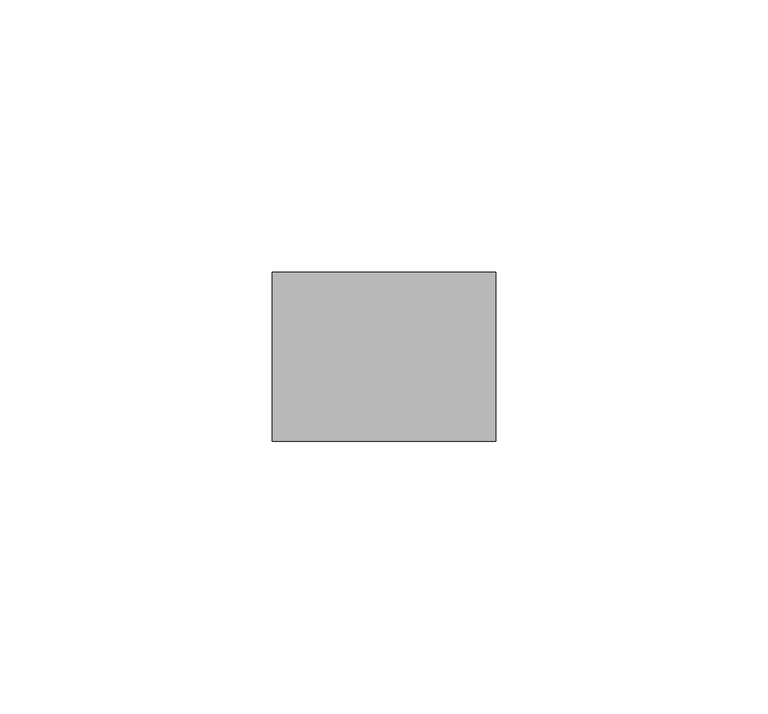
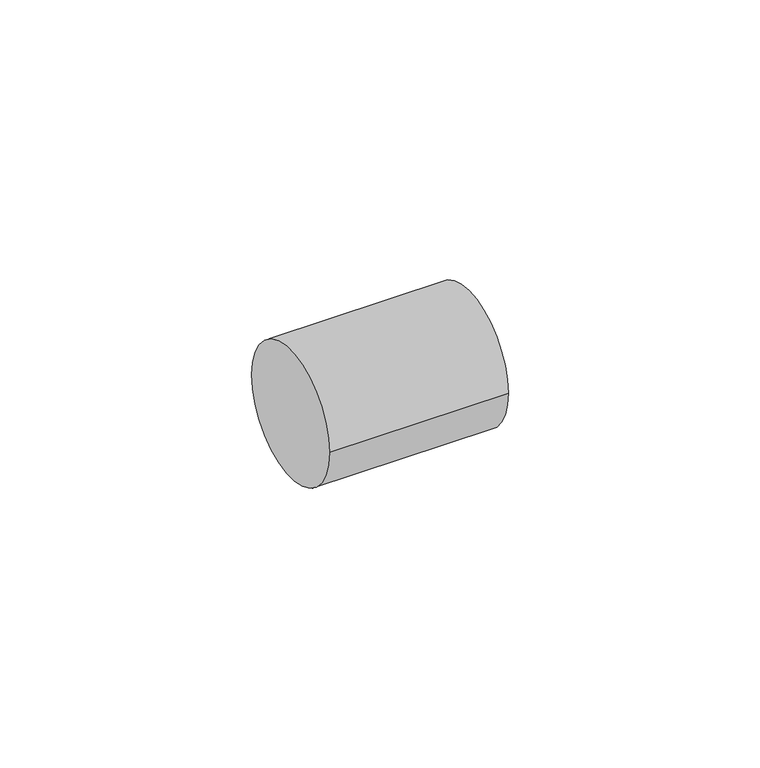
"""IFC4 building model written with IfcOpenShell, lengths in millimetres: pipe fitting geometry, 01051005 : Manguitos union."""

import ifcopenshell
import ifcopenshell.guid

model = None  # the IFC model being written
_history = None  # IfcOwnerHistory: only IFC2X3 demands one
_inside = {}  # id of a spatial element -> (the spatial element, [elements in it])
_under = {}  # id of a project, library or spatial element -> (it, [spatial elements below it])
_declared = {}  # id of a project -> (the project, [libraries it declares])
_typed = {}  # id of a type object -> (the type object, [elements of that type])
_made_of = {}  # id of a material, layer set ... -> (it, [elements and type objects made of it])


def new_model(schema):
    """Start an empty IFC model of exactly this schema.

    Asked for "IFC4X3", IfcOpenShell would pick the latest addendum, in which some entities
    have other attributes; the version numbers below select the first issue.
    IFC2X3 requires an IfcOwnerHistory on every rooted entity: one is made here for all.
    """
    global model, _history
    if schema == "IFC4X3":
        model = ifcopenshell.file(schema_version=(4, 3, 0, 0))
    else:
        model = ifcopenshell.file(schema=schema)
    _inside.clear()
    _under.clear()
    _declared.clear()
    _typed.clear()
    _made_of.clear()
    _history = None
    if model.schema == "IFC2X3":
        org = make("IfcOrganization", Name="unknown")
        user = make(
            "IfcPersonAndOrganization",
            ThePerson=make("IfcPerson", FamilyName="unknown"),
            TheOrganization=org,
        )
        app = make(
            "IfcApplication",
            ApplicationDeveloper=org,
            Version="unknown",
            ApplicationFullName="unknown",
            ApplicationIdentifier="unknown",
        )
        _history = make(
            "IfcOwnerHistory",
            OwningUser=user,
            OwningApplication=app,
            ChangeAction="ADDED",
            CreationDate=0,
        )
    return model


def make(cls, **values):
    """One entity of the class cls with the attributes given. An attribute that is None is left unset."""
    return model.create_entity(
        cls, **{name: value for name, value in values.items() if value is not None}
    )


def rooted(cls, **values):
    """An entity with a GlobalId (a new one), such as an element, a storey or a relation."""
    return make(cls, GlobalId=ifcopenshell.guid.new(), OwnerHistory=_history, **values)


def si_unit(unit_type, name, prefix=None):
    """IfcSIUnit, for example si_unit("LENGTHUNIT", "METRE", prefix="MILLI")."""
    return make("IfcSIUnit", UnitType=unit_type, Prefix=prefix, Name=name)


def assignment(units):
    """IfcUnitAssignment: the units of a project."""
    return None if units is None else make("IfcUnitAssignment", Units=units)


def point(xyz):
    """IfcCartesianPoint."""
    return None if xyz is None else make("IfcCartesianPoint", Coordinates=xyz)


def direction(xyz):
    """IfcDirection."""
    return None if xyz is None else make("IfcDirection", DirectionRatios=xyz)


def frame(location, z_axis=None, x_axis=None):
    """IfcAxis2Placement3D, a coordinate frame: its origin and axes. An axis left out is left unset."""
    return make(
        "IfcAxis2Placement3D",
        Location=point(location),
        Axis=direction(z_axis),
        RefDirection=direction(x_axis),
    )


def frame_2d(location, x_axis=None):
    """IfcAxis2Placement2D, a coordinate frame in the plane: its origin and x axis."""
    return make(
        "IfcAxis2Placement2D", Location=point(location), RefDirection=direction(x_axis)
    )


def origin():
    """The frame at (0, 0, 0) with its axes left unset."""
    return frame((0.0, 0.0, 0.0))


def origin_2d():
    """The frame at (0, 0) in the plane with its x axis left unset."""
    return frame_2d((0.0, 0.0))


def place(relative_to, where):
    """IfcLocalPlacement: puts the frame where relative to a parent placement (None: the world)."""
    return make(
        "IfcLocalPlacement", PlacementRelTo=relative_to, RelativePlacement=where
    )


def context(
    kind, dimensions, precision=None, world=None, true_north=None, identifier=None
):
    """IfcGeometricRepresentationContext, for example the 3D "Model" context."""
    return make(
        "IfcGeometricRepresentationContext",
        ContextIdentifier=identifier,
        ContextType=kind,
        CoordinateSpaceDimension=dimensions,
        Precision=precision,
        WorldCoordinateSystem=world,
        TrueNorth=true_north,
    )


def project(units=None, contexts=None):
    """IfcProject with its units and contexts."""
    return rooted(
        "IfcProject",
        Name="project",
        RepresentationContexts=contexts,
        UnitsInContext=assignment(units),
    )


def spatial(cls, under=None, at=None, **own):
    """A site, building, storey or space (cls), placed at a placement, below another one or the project."""
    s = rooted(cls, ObjectPlacement=at, **own)
    if under is not None:
        _under.setdefault(under.id(), (under, []))[1].append(s)
    return s


def circle_curve(where, radius):
    """IfcCircle in the frame where."""
    return make("IfcCircle", Position=where, Radius=radius)


def trimmed(basis, trim1, trim2, sense, master):
    """IfcTrimmedCurve: the piece of a basis curve between two trims."""
    return make(
        "IfcTrimmedCurve",
        BasisCurve=basis,
        Trim1=trim1,
        Trim2=trim2,
        SenseAgreement=sense,
        MasterRepresentation=master,
    )


def segment(curve, same_sense, transition):
    """IfcCompositeCurveSegment."""
    return make(
        "IfcCompositeCurveSegment",
        Transition=transition,
        SameSense=same_sense,
        ParentCurve=curve,
    )


def composite_curve(segments, self_intersect=None):
    """IfcCompositeCurve: segments joined end to end."""
    return make("IfcCompositeCurve", Segments=segments, SelfIntersect=self_intersect)


def outline(outer, holes=None, kind="AREA"):
    """IfcArbitraryClosedProfileDef: a profile drawn as a closed curve; with holes, ...WithVoids."""
    if holes is None:
        return make("IfcArbitraryClosedProfileDef", ProfileType=kind, OuterCurve=outer)
    return make(
        "IfcArbitraryProfileDefWithVoids",
        ProfileType=kind,
        OuterCurve=outer,
        InnerCurves=holes,
    )


def extrude(swept, where, along, depth):
    """IfcExtrudedAreaSolid: the profile swept, set in the frame where, extruded along a direction by depth."""
    return make(
        "IfcExtrudedAreaSolid",
        SweptArea=swept,
        Position=where,
        ExtrudedDirection=direction(along),
        Depth=depth,
    )


def shape(context_of_items, identifier, shape_type, items):
    """IfcShapeRepresentation: the items that make up one representation, for example the "Body"."""
    return make(
        "IfcShapeRepresentation",
        ContextOfItems=context_of_items,
        RepresentationIdentifier=identifier,
        RepresentationType=shape_type,
        Items=items,
    )


def source(mapping_origin, context_of_items, identifier, shape_type, items):
    """IfcRepresentationMap: a shape defined once, which mapped items show again and again."""
    return make(
        "IfcRepresentationMap",
        MappingOrigin=mapping_origin,
        MappedRepresentation=shape(context_of_items, identifier, shape_type, items),
    )


def transform(
    local_origin,
    x_axis=None,
    y_axis=None,
    z_axis=None,
    scale=None,
    scale2=None,
    scale3=None,
    uniform=True,
):
    """IfcCartesianTransformationOperator3D, or its non-uniform kind. x_axis, y_axis, z_axis: its Axis1, 2, 3."""
    if uniform:
        return make(
            "IfcCartesianTransformationOperator3D",
            Axis1=direction(x_axis),
            Axis2=direction(y_axis),
            LocalOrigin=point(local_origin),
            Scale=scale,
            Axis3=direction(z_axis),
        )
    return make(
        "IfcCartesianTransformationOperator3DnonUniform",
        Axis1=direction(x_axis),
        Axis2=direction(y_axis),
        LocalOrigin=point(local_origin),
        Scale=scale,
        Axis3=direction(z_axis),
        Scale2=scale2,
        Scale3=scale3,
    )


def mapped(mapping_source, mapping_target):
    """IfcMappedItem: shows the shape of a source again, moved by a transform."""
    return make(
        "IfcMappedItem", MappingSource=mapping_source, MappingTarget=mapping_target
    )


def made_of(thing, what):
    """Note that an element or type object is made of a material, layer set ...; save() writes the relation."""
    if what is not None:
        _made_of.setdefault(what.id(), (what, []))[1].append(thing)
    return thing


def element(
    cls,
    number,
    at=None,
    inside=None,
    cuts=None,
    type_object=None,
    material=None,
    context=None,
    identifier="Body",
    shape_type=None,
    held_by="IfcProductDefinitionShape",
    body=None,
    shapes=None,
    **own,
):
    """One element of the class cls, such as IfcWall. Its Tag is "e" and its number.

    at: its placement. inside: the storey or other place that contains it. cuts: it is an
    opening in that element (IfcRelVoidsElement). A single representation is given by context,
    identifier, shape_type and body (its items); several are given by shapes. held_by: the class
    of the entity that holds the representations. save() writes the other relations.
    """
    e = rooted(cls, Tag="e%d" % number, ObjectPlacement=at, **own)
    if body is not None:
        shapes = [shape(context, identifier, shape_type, body)]
    if shapes is not None:
        e.Representation = make(held_by, Representations=shapes)
    if inside is not None:
        _inside.setdefault(inside.id(), (inside, []))[1].append(e)
    if cuts is not None:
        rooted(
            "IfcRelVoidsElement", RelatingBuildingElement=cuts, RelatedOpeningElement=e
        )
    if type_object is not None:
        _typed.setdefault(type_object.id(), (type_object, []))[1].append(e)
    return made_of(e, material)


def aggregate(whole, parts):
    """IfcRelAggregates: a whole, such as a stair, and the parts it consists of."""
    return rooted("IfcRelAggregates", RelatingObject=whole, RelatedObjects=parts)


def save(model, path):
    """Write the relations noted so far, then the file.

    IfcRelAggregates (storeys below a building ...), IfcRelContainedInSpatialStructure (elements
    in a storey), IfcRelDefinesByType, IfcRelAssociatesMaterial and IfcRelDeclares: one each for
    every whole, place, type object, material and project.
    """
    for whole, parts in _under.values():
        aggregate(whole, parts)
    for where, things in _inside.values():
        rooted(
            "IfcRelContainedInSpatialStructure",
            RelatedElements=things,
            RelatingStructure=where,
        )
    for kind, things in _typed.values():
        rooted("IfcRelDefinesByType", RelatedObjects=things, RelatingType=kind)
    for what, things in _made_of.values():
        rooted("IfcRelAssociatesMaterial", RelatedObjects=things, RelatingMaterial=what)
    for by, libraries in _declared.values():
        rooted("IfcRelDeclares", RelatingContext=by, RelatedDefinitions=libraries)
    model.write(path)


def pipe_fitting_c87a31ad(model_context):
    return source(origin(), model_context, "Body", "SweptSolid", [
        extrude(outline(composite_curve([segment(trimmed(circle_curve(origin_2d(), 15.5), [point((-15.5, 0.0))], [point((15.5, 0.0))], False, "CARTESIAN"), True, "CONTINUOUS"), segment(trimmed(circle_curve(origin_2d(), 15.5), [point((15.5, 0.0))], [point((-15.5, 0.0))], False, "CARTESIAN"), True, "CONTINUOUS")], self_intersect=False)), frame((-20.5, 0.0, 0.0), z_axis=(1.0, 0.0, 0.0), x_axis=(0.0, 1.0, 0.0)), (0.0, 0.0, 1.0), 41.0),
    ])


if __name__ == "__main__":
    model = new_model("IFC4")
    model_context = context("Model", 3, world=origin())
    ifc_project = project(units=[si_unit("LENGTHUNIT", "METRE", prefix="MILLI")], contexts=[model_context])
    site = spatial("IfcSite", under=ifc_project)
    building = spatial("IfcBuilding", under=site)
    placement = place(None, origin())
    pipe_fitting_shape = pipe_fitting_c87a31ad(model_context)
    element("IfcPipeFitting", 1, ObjectType="01051005 : Manguitos union", at=placement, inside=building, context=model_context, shape_type="MappedRepresentation", body=[
        mapped(pipe_fitting_shape, transform((0.0, 0.0, 0.0), x_axis=(1.0, 0.0, 0.0), y_axis=(0.0, 1.0, 0.0), z_axis=(0.0, 0.0, 1.0))),
    ])
    save(model, "model.ifc")
